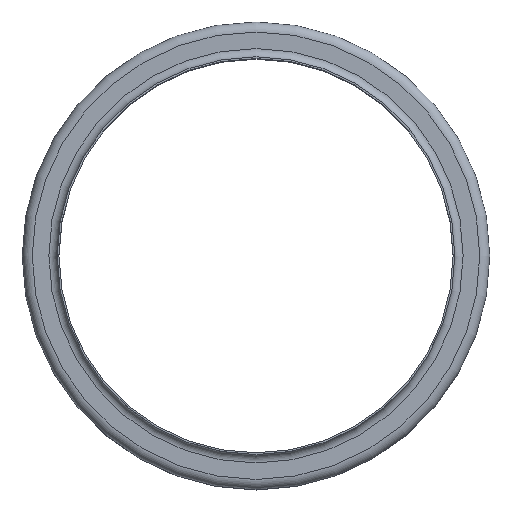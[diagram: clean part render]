
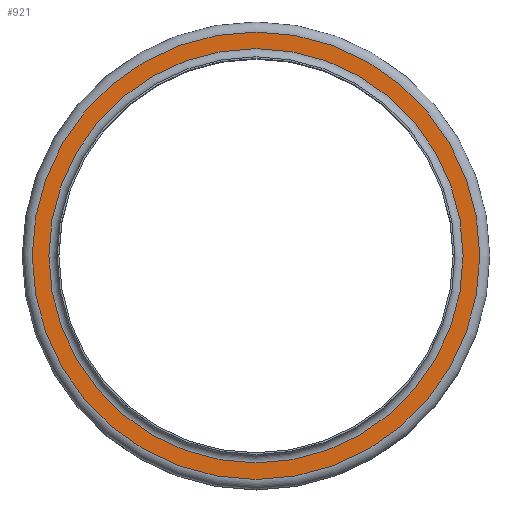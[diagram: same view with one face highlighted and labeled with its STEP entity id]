
A CAD part, top view. The second image highlights one B-rep face of the part: STEP entity #921.
In plain terms, the highlighted planar face has unit normal (0, 0, 1).
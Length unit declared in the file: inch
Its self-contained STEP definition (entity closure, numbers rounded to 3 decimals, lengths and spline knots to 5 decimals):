
#98=FACE_BOUND('',#272,.T.);
#165=FACE_OUTER_BOUND('',#271,.T.);
#271=EDGE_LOOP('',(#772));
#272=EDGE_LOOP('',(#773));
#385=CIRCLE('',#1110,5.649);
#386=CIRCLE('',#1112,6.101);
#466=VERTEX_POINT('',#1734);
#467=VERTEX_POINT('',#1738);
#571=EDGE_CURVE('',#466,#466,#385,.T.);
#572=EDGE_CURVE('',#467,#467,#386,.T.);
#772=ORIENTED_EDGE('',*,*,#572,.F.);
#773=ORIENTED_EDGE('',*,*,#571,.T.);
#854=PLANE('',#1111);
#921=ADVANCED_FACE('',(#165,#98),#854,.T.);
#1110=AXIS2_PLACEMENT_3D('',#1736,#1446,#1447);
#1111=AXIS2_PLACEMENT_3D('',#1737,#1448,#1449);
#1112=AXIS2_PLACEMENT_3D('',#1739,#1450,#1451);
#1446=DIRECTION('center_axis',(0.,0.,-1.));
#1447=DIRECTION('ref_axis',(1.,0.,0.));
#1448=DIRECTION('center_axis',(0.,0.,1.));
#1449=DIRECTION('ref_axis',(1.,0.,0.));
#1450=DIRECTION('center_axis',(0.,0.,-1.));
#1451=DIRECTION('ref_axis',(1.,0.,0.));
#1734=CARTESIAN_POINT('',(5.649,0.,-0.226));
#1736=CARTESIAN_POINT('Origin',(0.,0.,-0.226));
#1737=CARTESIAN_POINT('Origin',(0.,6.101,-0.226));
#1738=CARTESIAN_POINT('',(6.101,0.,-0.226));
#1739=CARTESIAN_POINT('Origin',(0.,0.,-0.226));
